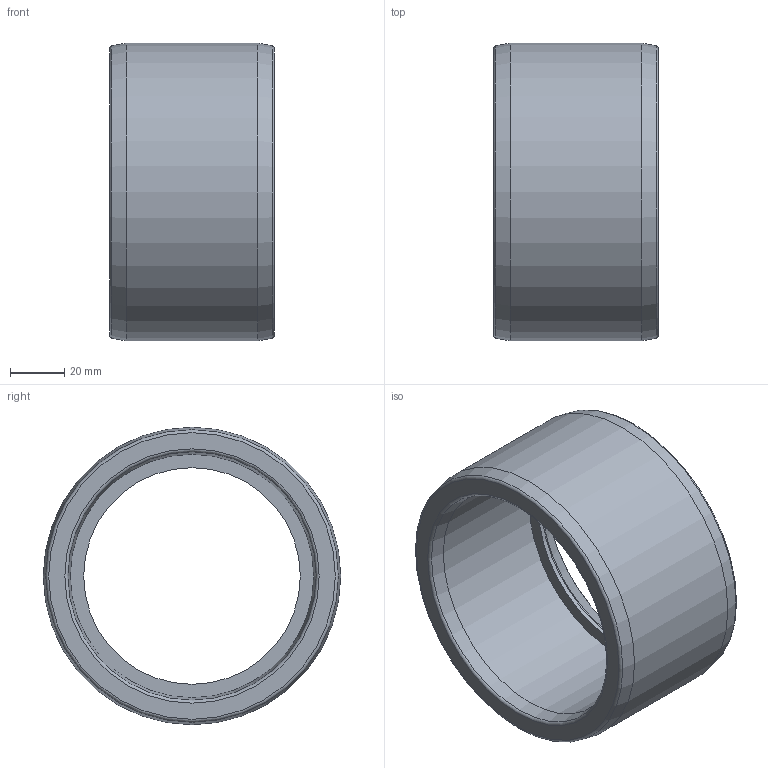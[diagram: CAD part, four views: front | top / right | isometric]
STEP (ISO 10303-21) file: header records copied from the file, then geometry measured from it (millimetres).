
FILE_DESCRIPTION(/* description */ ('PLASSON BUSHING-CEMENT PVC 110-90'),/* implementation_level */ '2;1');
FILE_NAME(/* name */ 'C:\Dropbox\KIMPROJECTS-Inventor\99-16-3568-Processing\PVC Catalog 2017\050900\050900110090.ipt.stp',/* time_stamp */ '2017-12-07T15:59:35+02:00',/* author */ ('KIM'),/* organization */ (''),/* preprocessor_version */ 'ST-DEVELOPER v15.6',/* originating_system */ 'Autodesk Inventor 2015',/* authorisation */ '');
FILE_SCHEMA (('AP242_MANAGED_MODEL_BASED_3D_ENGINEERING_MIM_LF','AUTOMOTIVE_DESIGN { 1 0 10303 214 3 1 1 }'));
Length unit declared in the file: millimetre
Products named in the file (1): 050900110090
Bounding box: 61 x 110 x 110 mm (x, y, z)
Volume: 195105.2 mm3; surface area: 44695.6 mm2
Topology: 1 solids, 1 shells, 15 faces, 27 edges, 15 vertices
Faces by surface type: torus 5, cone 4, cylinder 3, plane 3
Full cylindrical faces by diameter (mm): 80.1 x1, 90 x1, 110 x1
Entity records: 332 total; most frequent: DIRECTION 62, CARTESIAN_POINT 46, AXIS2_PLACEMENT_3D 31, EDGE_LOOP 30, ORIENTED_EDGE 30, FACE_BOUND 15, FACE_OUTER_BOUND 15, CIRCLE 15
